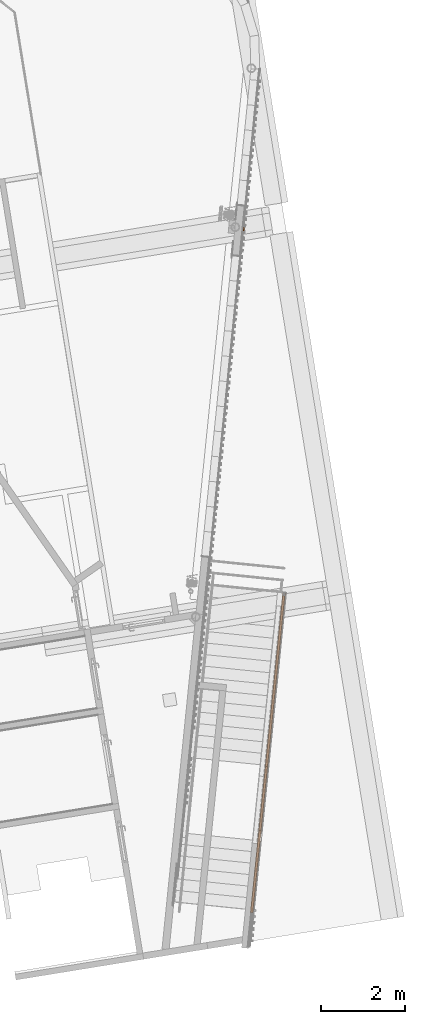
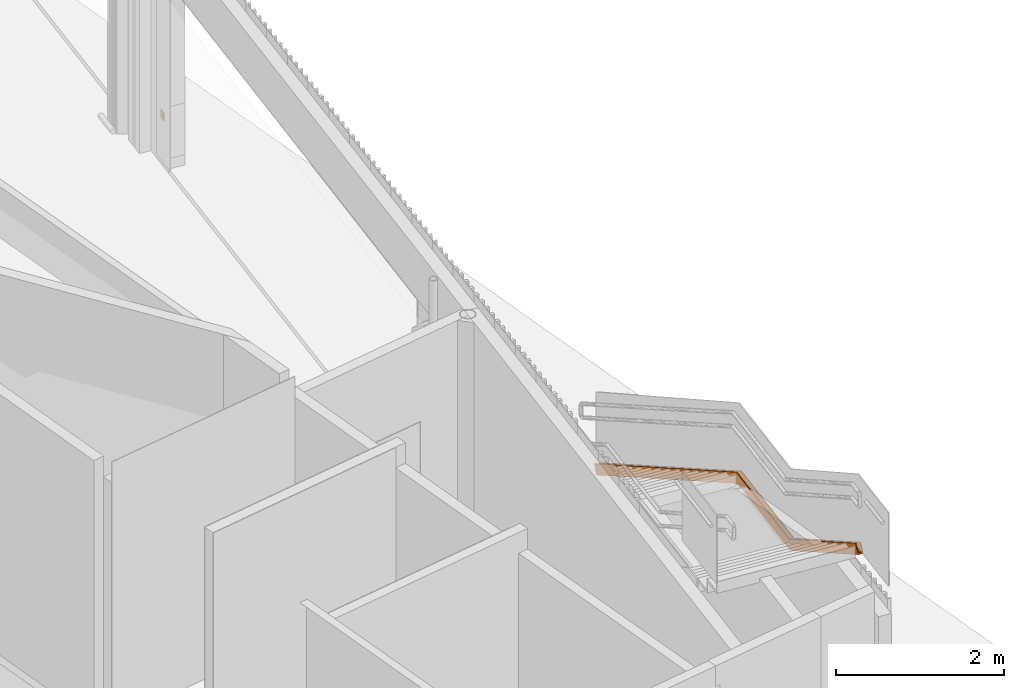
# One storey, part 23 of 23: 2 proxies.
"""IFC2X3 building model written with IfcOpenShell, lengths in millimetres."""

from ifc_helpers import new_model, entity, si_unit, converted_unit, derived_unit, direction, frame, origin, origin_with_axes, place, context, subcontext, project, spatial, faceted_brep, source, transform, mapped, material, material_list, type_object, element, save


model = new_model("IFC2X3")

# Units and contexts
plan_context = context("Plan", 3, precision=1e-05, world=origin_with_axes())
model_context = context("Model", 3, precision=0.01, world=origin(), true_north=direction((6.12323399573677e-17, 1.0)))
body_context = subcontext(model_context, "Body", "Model", "MODEL_VIEW")
ifc_project = project(units=[converted_unit("PLANEANGLEUNIT", "DEGREE", entity("IfcPositiveLengthMeasure", 0.0174532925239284), si_unit("PLANEANGLEUNIT", "RADIAN"), dimensions=[0, 0, 0, 0, 0, 0, 0]), si_unit("AREAUNIT", "SQUARE_METRE"), si_unit("LENGTHUNIT", "METRE", prefix="MILLI"), si_unit("MASSUNIT", "GRAM", prefix="KILO"), si_unit("POWERUNIT", "WATT"), si_unit("PRESSUREUNIT", "PASCAL", prefix="KILO"), si_unit("FORCEUNIT", "NEWTON", prefix="KILO"), si_unit("ELECTRICVOLTAGEUNIT", "VOLT"), si_unit("ELECTRICCURRENTUNIT", "AMPERE"), si_unit("THERMODYNAMICTEMPERATUREUNIT", "DEGREE_CELSIUS"), si_unit("TIMEUNIT", "SECOND"), si_unit("VOLUMEUNIT", "CUBIC_METRE"), derived_unit("LINEARVELOCITYUNIT", [(si_unit("LENGTHUNIT", "METRE"), 1), (si_unit("TIMEUNIT", "SECOND"), -1)]), derived_unit("VOLUMETRICFLOWRATEUNIT", [(si_unit("VOLUMEUNIT", "CUBIC_METRE"), 1), (si_unit("TIMEUNIT", "SECOND"), -1)]), derived_unit("THERMALTRANSMITTANCEUNIT", [(si_unit("POWERUNIT", "WATT"), 1), (si_unit("THERMODYNAMICTEMPERATUREUNIT", "KELVIN"), -1), (si_unit("AREAUNIT", "SQUARE_METRE"), -1)]), derived_unit("SOUNDPRESSUREUNIT", [(si_unit("PRESSUREUNIT", "PASCAL"), 1)])], contexts=[model_context, plan_context])

# Site, building, storey
site_placement = place(None, frame((-0.00071070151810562, 0.00438415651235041, 0.0), z_axis=(0.0, 0.0, 1.0), x_axis=(-0.160236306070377, 0.987078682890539, 0.0)))
site = spatial("IfcSite", under=ifc_project, at=site_placement, Name="Default", CompositionType="ELEMENT")
building_placement = place(site_placement, origin_with_axes())
building = spatial("IfcBuilding", under=site, at=building_placement, Name="TOO", CompositionType="ELEMENT")
storey_placement = place(building_placement, frame((0.0, 0.0, 58999.9999999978), z_axis=(0.0, 0.0, 1.0), x_axis=(1.0, 0.0, 0.0)))
storey = spatial("IfcBuildingStorey", under=building, at=storey_placement, Name="Nivå F", CompositionType="ELEMENT", Elevation=58999.9999999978)

# Proxies
ifc_material_1 = material(Name="<Unnamed>")
building_element_proxy_type_1 = type_object("IfcBuildingElementProxyType", Name="TD rekkverk innfesting profiøl2:TD rekkverk innfesting profiøl", PredefinedType="NOTDEFINED", material=ifc_material_1)
shared_shape_1 = source(origin(), body_context, "Body", "Brep", [
    faceted_brep([(771038.883223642, -508616.451754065, 59054.1661388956), (771109.176138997, -508635.286683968, 59173.7210932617), (771106.587948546, -508644.945942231, 59173.7210932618), (771043.828485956, -508628.129594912, 59066.9791172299), (771030.8875337, -508676.425886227, 59066.9791172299), (771093.646996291, -508693.242233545, 59173.7210932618), (771091.05880584, -508702.901491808, 59173.7210932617), (771020.765890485, -508684.066561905, 59054.1661388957), (763729.452738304, -506657.895758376, 62732.0752621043), (763711.335405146, -506725.510566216, 62732.0752621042), (763781.628320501, -506744.345496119, 62851.6302164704), (763784.216510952, -506734.686237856, 62851.6302164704), (763721.457048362, -506717.869890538, 62744.8882404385), (763734.398000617, -506669.573599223, 62744.8882404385), (763797.157463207, -506686.389946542, 62851.6302164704), (763799.745653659, -506676.730688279, 62851.6302164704), (767096.866575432, -507560.191576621, 61538.2993189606), (765623.829690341, -507165.492532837, 61538.2993189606), (765661.739824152, -507175.650522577, 61678.260869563), (767134.776709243, -507570.34956636, 61678.260869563), (767132.188518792, -507580.008824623, 61678.2608695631), (765659.151633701, -507185.30978084, 61678.260869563), (765625.304415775, -507176.24044613, 61553.2993189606), (767098.341300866, -507570.939489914, 61553.2993189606), (767085.400348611, -507619.235781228, 61553.2993189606), (765612.36346352, -507224.536737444, 61553.2993189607), (765646.210681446, -507233.606072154, 61678.2608695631), (767119.247566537, -507628.305115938, 61678.2608695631), (767116.659376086, -507637.9643742, 61678.260869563), (765643.622490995, -507243.265330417, 61678.260869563), (765605.712357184, -507233.107340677, 61538.2993189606), (767078.749242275, -507627.806384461, 61538.2993189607)], [[[0, 1, 2, 3, 4, 5, 6, 7]], [[8, 9, 10, 11, 12, 13, 14, 15]], [[1, 0, 16, 17, 8, 15, 18, 19]], [[2, 1, 19, 20]], [[3, 2, 20, 21, 14, 13, 22, 23]], [[4, 3, 23, 24]], [[5, 4, 24, 25, 12, 11, 26, 27]], [[6, 5, 27, 28]], [[7, 6, 28, 29, 10, 9, 30, 31]], [[0, 7, 31, 16]], [[20, 19, 18, 21]], [[24, 23, 22, 25]], [[28, 27, 26, 29]], [[16, 31, 30, 17]], [[21, 18, 15, 14]], [[25, 22, 13, 12]], [[29, 26, 11, 10]], [[17, 30, 9, 8]]]),
])
proxy_1_placement = place(storey_placement, frame((0.0, 0.0, -58999.9999999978), z_axis=(0.0, 0.0, 1.0), x_axis=(1.0, 0.0, 0.0)))
element("IfcBuildingElementProxy", 1, at=proxy_1_placement, inside=storey, type_object=building_element_proxy_type_1, material=ifc_material_1, Name="TD rekkverk innfesting profiøl2:TD rekkverk innfesting profiøl", ObjectType="TD rekkverk innfesting profiøl2:TD rekkverk innfesting profiøl", context=body_context, shape_type="MappedRepresentation", body=[
    mapped(shared_shape_1, transform((0.0, 0.0, 0.0), scale=1.0)),
])
ifc_material_2 = material(Name="Material3")
ifc_material_3 = material(Name="Material1")
ifc_material_4 = material(Name="Material2")
ifc_material_list = material_list([ifc_material_2, ifc_material_3, ifc_material_4])
building_element_proxy_type_2 = type_object("IfcBuildingElementProxyType", Name="Dobbelstikk vertikal:Dobbelstikk vertikal", PredefinedType="NOTDEFINED", material=ifc_material_list)
shared_shape_2 = source(origin(), body_context, "Body", "Brep", [
    faceted_brep([(0.487092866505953, -17.4980087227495, -6.419947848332), (0.487092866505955, -17.0, -6.31270685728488), (0.487092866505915, -5.0, -6.31270685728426), (0.487092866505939, -5.0, -5.51270685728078), (0.487092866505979, -17.0, -5.51270685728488), (0.487092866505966, -18.4212520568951, -6.10140873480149), (0.487092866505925, -19.0099539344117, -7.52266079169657), (0.487092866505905, -13.0337787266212, -7.52266079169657), (0.487092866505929, -13.0337787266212, -6.72266079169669), (0.487092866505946, -17.9077381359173, -6.72266079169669), (-0.512907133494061, -5.0, -5.51270685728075), (-0.512907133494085, -5.0, -6.31270685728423), (-0.512907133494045, -17.0, -6.31270685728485), (-0.512907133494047, -17.4980087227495, -6.41994784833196), (-0.512907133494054, -17.9077381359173, -6.72266079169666), (-0.512907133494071, -13.0337787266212, -6.72266079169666), (-0.512907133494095, -13.0337787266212, -7.52266079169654), (-0.512907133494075, -19.0099539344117, -7.52266079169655), (-0.512907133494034, -18.4212520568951, -6.10140873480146), (-0.512907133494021, -17.0, -5.51270685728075)], [[[0, 1, 2, 3, 4, 5, 6, 7, 8, 9]], [[10, 11, 12, 13, 14, 15, 16, 17, 18, 19]], [[10, 19, 4, 3]], [[10, 3, 2, 11]], [[11, 2, 1, 12]], [[1, 0, 13, 12]], [[13, 0, 9, 14]], [[15, 14, 9, 8]], [[15, 8, 7, 16]], [[16, 7, 6, 17]], [[5, 18, 17, 6]], [[4, 19, 18, 5]]]),
    faceted_brep([(-0.512907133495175, -13.0667616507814, -43.2905038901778), (-0.512907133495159, -17.9240022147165, -43.2905038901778), (-0.51290713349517, -17.5079457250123, -43.6021563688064), (-0.512907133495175, -17.0, -43.7127068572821), (-0.512907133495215, -5.0, -43.7127068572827), (-0.512907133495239, -5.0, -44.5127068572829), (-0.512907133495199, -17.0, -44.5127068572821), (-0.512907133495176, -18.429913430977, -43.9204173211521), (-0.512907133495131, -19.022202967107, -42.4905038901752), (-0.512907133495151, -13.0667616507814, -42.4905038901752), (0.487092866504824, -18.429913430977, -43.9204173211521), (0.487092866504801, -17.0, -44.512706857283), (0.487092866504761, -5.0, -44.512706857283), (0.487092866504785, -5.0, -43.7127068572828), (0.487092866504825, -17.0, -43.7127068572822), (0.48709286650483, -17.5079457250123, -43.6021563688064), (0.487092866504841, -17.9240022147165, -43.2905038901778), (0.487092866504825, -13.0667616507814, -43.2905038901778), (0.487092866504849, -13.0667616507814, -42.4905038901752), (0.487092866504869, -19.022202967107, -42.4905038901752)], [[[0, 1, 2, 3, 4, 5, 6, 7, 8, 9]], [[10, 11, 12, 13, 14, 15, 16, 17, 18, 19]], [[10, 7, 6, 11]], [[19, 8, 7, 10]], [[9, 8, 19, 18]], [[0, 9, 18, 17]], [[1, 0, 17, 16]], [[16, 15, 2, 1]], [[2, 15, 14, 3]], [[3, 14, 13, 4]], [[5, 4, 13, 12]], [[5, 12, 11, 6]]]),
    faceted_brep([(-17.3205080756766, -5.0, 35.0002002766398), (-19.3185165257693, -5.0, 30.1765811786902), (-41.0, -5.0, 60.0002002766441), (-14.1421356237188, -5.0, 39.1423359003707), (-20.0, -5.0, 25.0002002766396), (-19.3185165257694, -5.0, 19.8238193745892), (-19.3185165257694, -5.0, -19.8234188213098), (-17.3205080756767, -5.0, -14.9997997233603), (-17.3205080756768, -5.0, 15.0002002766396), (-14.1421356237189, -5.0, -10.8576640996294), (-14.1421356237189, -5.0, 10.8580646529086), (-10.0, -5.0, -7.67929164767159), (-10.0, -5.0, 7.6796922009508), (-5.17638090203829, -5.0, -5.68128319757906), (-5.17638090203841, -5.0, 5.6816837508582), (0.0, -5.0, 5.00020027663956), (0.0, -5.0, -4.99979972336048), (5.17638090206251, -5.0, -5.68128319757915), (5.17638090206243, -5.0, 5.68168375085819), (10.0, -5.0, 7.67969220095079), (10.0, -5.0, -7.67929164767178), (14.142135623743, -5.0, 10.8580646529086), (14.142135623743, -5.0, -10.8576640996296), (17.3205080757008, -5.0, 15.0002002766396), (17.3205080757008, -5.0, -14.9997997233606), (19.3185165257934, -5.0, 19.8238193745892), (19.3185165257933, -5.0, -19.8234188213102), (41.0, -5.0, 60.000200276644), (20.0, -5.0, 25.0002002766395), (19.3185165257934, -5.0, 30.1765811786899), (17.3205080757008, -5.0, 35.0002002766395), (14.1421356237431, -5.0, 39.1423359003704), (10.0, -5.0, 42.3207083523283), (5.17638090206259, -5.0, 44.3187168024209), (0.0, -5.0, 45.0002002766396), (-5.17638090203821, -5.0, 44.318716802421), (-10.0, -5.0, 42.3207083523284), (41.0, -5.0, -59.999799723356), (20.0, -5.0, -24.9997997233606), (19.3185165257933, -5.0, -30.1761806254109), (17.3205080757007, -5.0, -34.9997997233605), (14.1421356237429, -5.0, -39.1419353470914), (10.0, -5.0, -42.3203077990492), (5.17638090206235, -5.0, -44.3183162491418), (0.0, -5.0, -44.9997997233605), (-41.0, -5.0, -59.9997997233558), (-20.0, -5.0, -24.9997997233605), (-19.3185165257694, -5.0, -30.1761806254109), (-17.3205080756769, -5.0, -34.9997997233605), (-14.142135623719, -5.0, -39.1419353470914), (-10.0, -5.0, -42.3203077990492), (-5.17638090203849, -5.0, -44.3183162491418), (17.3205080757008, -17.0, 35.0002002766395), (19.3185165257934, -17.0, 30.1765811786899), (31.0, -17.0, 50.0002002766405), (14.142135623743, -17.0, 39.1423359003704), (20.0, -17.0, 25.0002002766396), (19.3185165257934, -17.0, 19.8238193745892), (19.3185165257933, -17.0, -19.8234188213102), (17.3205080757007, -17.0, -14.9997997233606), (17.3205080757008, -17.0, 15.0002002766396), (14.142135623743, -17.0, -10.8576640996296), (14.142135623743, -17.0, 10.8580646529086), (10.0, -17.0, -7.67929164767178), (10.0, -17.0, 7.67969220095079), (5.17638090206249, -17.0, -5.68128319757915), (5.17638090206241, -17.0, 5.68168375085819), (0.0, -17.0, 5.00020027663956), (0.0, -17.0, -4.99979972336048), (-5.17638090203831, -17.0, -5.68128319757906), (-5.17638090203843, -17.0, 5.6816837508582), (-10.0, -17.0, 7.6796922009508), (-10.0, -17.0, -7.67929164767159), (-14.142135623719, -17.0, 10.8580646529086), (-14.1421356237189, -17.0, -10.8576640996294), (-17.3205080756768, -17.0, 15.0002002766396), (-17.3205080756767, -17.0, -14.9997997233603), (-19.3185165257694, -17.0, 19.8238193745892), (-19.3185165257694, -17.0, -19.8234188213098), (-31.0, -17.0, 50.0002002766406), (-20.0, -17.0, 25.0002002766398), (-19.3185165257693, -17.0, 30.1765811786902), (-17.3205080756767, -17.0, 35.0002002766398), (-14.1421356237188, -17.0, 39.1423359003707), (-10.0, -17.0, 42.3207083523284), (-5.17638090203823, -17.0, 44.318716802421), (0.0, -17.0, 45.0002002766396), (5.17638090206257, -17.0, 44.3187168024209), (10.0, -17.0, 42.3207083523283), (-31.0, -17.0, -49.9997997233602), (-20.0, -17.0, -24.9997997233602), (-19.3185165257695, -17.0, -30.1761806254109), (-17.3205080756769, -17.0, -34.9997997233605), (-14.142135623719, -17.0, -39.1419353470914), (-10.0, -17.0, -42.3203077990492), (-5.17638090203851, -17.0, -44.3183162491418), (0.0, -17.0, -44.9997997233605), (31.0, -17.0, -49.9997997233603), (20.0, -17.0, -24.9997997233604), (19.3185165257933, -17.0, -30.1761806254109), (17.3205080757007, -17.0, -34.9997997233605), (14.1421356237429, -17.0, -39.1419353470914), (10.0, -17.0, -42.3203077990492), (5.17638090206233, -17.0, -44.3183162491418)], [[[0, 1, 2]], [[3, 0, 2]], [[4, 2, 1]], [[2, 4, 5]], [[6, 2, 5]], [[6, 5, 7]], [[5, 8, 7]], [[8, 9, 7]], [[10, 9, 8]], [[10, 11, 9]], [[11, 10, 12]], [[12, 13, 11]], [[14, 13, 12]], [[13, 14, 15]], [[15, 16, 13]], [[15, 17, 16]], [[18, 17, 15]], [[17, 18, 19]], [[19, 20, 17]], [[20, 19, 21]], [[21, 22, 20]], [[23, 22, 21]], [[23, 24, 22]], [[23, 25, 24]], [[24, 25, 26]], [[26, 25, 27]], [[27, 25, 28]], [[27, 28, 29]], [[29, 30, 27]], [[30, 31, 27]], [[32, 27, 31]], [[27, 32, 33]], [[27, 33, 34]], [[34, 35, 2]], [[2, 27, 34]], [[2, 35, 36]], [[2, 36, 3]], [[27, 37, 26]], [[37, 38, 26]], [[38, 37, 39]], [[37, 40, 39]], [[40, 37, 41]], [[42, 41, 37]], [[37, 43, 42]], [[37, 44, 43]], [[37, 45, 44]], [[6, 46, 45]], [[47, 45, 46]], [[48, 45, 47]], [[45, 48, 49]], [[50, 45, 49]], [[45, 50, 51]], [[51, 44, 45]], [[6, 45, 2]], [[52, 53, 54]], [[55, 52, 54]], [[56, 54, 53]], [[54, 56, 57]], [[57, 58, 54]], [[57, 59, 58]], [[59, 57, 60]], [[60, 61, 59]], [[62, 61, 60]], [[62, 63, 61]], [[63, 62, 64]], [[64, 65, 63]], [[66, 65, 64]], [[65, 66, 67]], [[67, 68, 65]], [[67, 69, 68]], [[70, 69, 67]], [[69, 70, 71]], [[71, 72, 69]], [[72, 71, 73]], [[73, 74, 72]], [[75, 74, 73]], [[75, 76, 74]], [[76, 75, 77]], [[77, 78, 76]], [[78, 77, 79]], [[79, 77, 80]], [[79, 80, 81]], [[81, 82, 79]], [[82, 83, 79]], [[84, 79, 83]], [[79, 84, 85]], [[79, 85, 86]], [[86, 87, 54]], [[54, 79, 86]], [[54, 87, 88]], [[54, 88, 55]], [[79, 89, 78]], [[89, 90, 78]], [[90, 89, 91]], [[89, 92, 91]], [[92, 89, 93]], [[94, 93, 89]], [[89, 95, 94]], [[89, 96, 95]], [[89, 97, 96]], [[58, 98, 97]], [[99, 97, 98]], [[100, 97, 99]], [[97, 100, 101]], [[102, 97, 101]], [[97, 102, 103]], [[103, 96, 97]], [[97, 54, 58]], [[79, 54, 27, 2]], [[45, 89, 79, 2]], [[37, 97, 89, 45]], [[54, 97, 37, 27]], [[58, 26, 38, 98]], [[59, 24, 26, 58]], [[20, 22, 61, 63]], [[59, 61, 22, 24]], [[17, 20, 63, 65]], [[16, 17, 65, 68]], [[69, 13, 16, 68]], [[72, 11, 13, 69]], [[7, 9, 74, 76]], [[72, 74, 9, 11]], [[6, 7, 76, 78]], [[46, 6, 78, 90]], [[91, 47, 46, 90]], [[92, 48, 47, 91]], [[50, 49, 93, 94]], [[92, 93, 49, 48]], [[51, 50, 94, 95]], [[44, 51, 95, 96]], [[103, 43, 44, 96]], [[102, 42, 43, 103]], [[40, 41, 101, 100]], [[102, 101, 41, 42]], [[39, 40, 100, 99]], [[38, 39, 99, 98]], [[53, 29, 28, 56]], [[52, 30, 29, 53]], [[32, 31, 55, 88]], [[52, 55, 31, 30]], [[33, 32, 88, 87]], [[34, 33, 87, 86]], [[85, 35, 34, 86]], [[84, 36, 35, 85]], [[0, 3, 83, 82]], [[84, 83, 3, 36]], [[1, 0, 82, 81]], [[4, 1, 81, 80]], [[77, 5, 4, 80]], [[75, 8, 5, 77]], [[12, 10, 73, 71]], [[75, 73, 10, 8]], [[14, 12, 71, 70]], [[15, 14, 70, 67]], [[66, 18, 15, 67]], [[64, 19, 18, 66]], [[23, 21, 62, 60]], [[64, 62, 21, 19]], [[25, 23, 60, 57]], [[28, 25, 57, 56]]]),
    faceted_brep([(0.500200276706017, -17.4980087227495, 43.593159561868), (0.500200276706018, -17.0, 43.7004005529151), (0.500200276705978, -5.0, 43.7004005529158), (0.500200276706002, -5.0, 44.5004005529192), (0.500200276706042, -17.0, 44.5004005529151), (0.500200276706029, -18.4212520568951, 43.9116986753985), (0.500200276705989, -19.0099539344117, 42.4904466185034), (0.500200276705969, -13.0337787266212, 42.4904466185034), (0.500200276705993, -13.0337787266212, 43.2904466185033), (0.500200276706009, -17.9077381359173, 43.2904466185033), (-0.499799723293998, -5.0, 44.5004005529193), (-0.499799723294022, -5.0, 43.7004005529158), (-0.499799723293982, -17.0, 43.7004005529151), (-0.499799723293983, -17.4980087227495, 43.593159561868), (-0.499799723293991, -17.9077381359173, 43.2904466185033), (-0.499799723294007, -13.0337787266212, 43.2904466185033), (-0.499799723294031, -13.0337787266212, 42.4904466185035), (-0.49979972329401, -19.0099539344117, 42.4904466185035), (-0.499799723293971, -18.4212520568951, 43.9116986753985), (-0.499799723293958, -17.0, 44.5004005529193)], [[[0, 1, 2, 3, 4, 5, 6, 7, 8, 9]], [[10, 11, 12, 13, 14, 15, 16, 17, 18, 19]], [[10, 19, 4, 3]], [[10, 3, 2, 11]], [[11, 2, 1, 12]], [[1, 0, 13, 12]], [[13, 0, 9, 14]], [[15, 14, 9, 8]], [[15, 8, 7, 16]], [[16, 7, 6, 17]], [[5, 18, 17, 6]], [[4, 19, 18, 5]]]),
    faceted_brep([(0.500200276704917, -18.429913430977, 6.09269008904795), (0.500200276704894, -17.0, 5.50040055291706), (0.500200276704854, -5.0, 5.50040055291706), (0.500200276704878, -5.0, 6.30040055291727), (0.500200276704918, -17.0, 6.30040055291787), (0.500200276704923, -17.5079457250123, 6.41095104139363), (0.500200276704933, -17.9240022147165, 6.72260352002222), (0.500200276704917, -13.0667616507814, 6.72260352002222), (0.500200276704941, -13.0667616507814, 7.52260352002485), (0.500200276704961, -19.022202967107, 7.52260352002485), (-0.499799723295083, -13.0667616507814, 6.72260352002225), (-0.499799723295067, -17.9240022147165, 6.72260352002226), (-0.499799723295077, -17.5079457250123, 6.41095104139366), (-0.499799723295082, -17.0, 6.3004005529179), (-0.499799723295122, -5.0, 6.3004005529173), (-0.499799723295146, -5.0, 5.50040055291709), (-0.499799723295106, -17.0, 5.5004005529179), (-0.499799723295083, -18.429913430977, 6.09269008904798), (-0.499799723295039, -19.022202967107, 7.52260352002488), (-0.499799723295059, -13.0667616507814, 7.52260352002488)], [[[0, 1, 2, 3, 4, 5, 6, 7, 8, 9]], [[10, 11, 12, 13, 14, 15, 16, 17, 18, 19]], [[0, 17, 16, 1]], [[9, 18, 17, 0]], [[19, 18, 9, 8]], [[19, 8, 7, 10]], [[11, 10, 7, 6]], [[6, 5, 12, 11]], [[12, 5, 4, 13]], [[13, 4, 3, 14]], [[15, 14, 3, 2]], [[15, 2, 1, 16]]]),
    faceted_brep([(-7.45647537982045, -5.0, 25.0004005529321), (-8.72813755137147, -5.0, 23.7287383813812), (-9.99979972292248, -5.0, 22.4570762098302), (-11.2714618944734, -5.0, 23.7287383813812), (-12.5431240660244, -5.0, 25.0004005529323), (-11.2714618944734, -5.0, 26.2720627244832), (-9.99979972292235, -5.0, 27.5437248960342), (-8.72813755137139, -5.0, 26.2720627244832), (-8.56429357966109, -5.50000000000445, 26.1082187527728), (-9.99979972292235, -5.50000000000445, 27.5437248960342), (-11.2714618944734, -5.50000000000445, 26.2720627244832), (-12.5431240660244, -5.50000000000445, 25.0004005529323), (-11.4353058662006, -5.50000000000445, 23.8925823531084), (-9.99979972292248, -5.50000000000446, 22.4570762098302), (-8.72813755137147, -5.50000000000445, 23.7287383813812), (-7.45647537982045, -5.50000000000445, 25.0004005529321)], [[[0, 1, 2, 3, 4, 5, 6, 7]], [[8, 9, 10, 11, 12, 13, 14, 15]], [[6, 9, 8, 15, 0, 7]], [[10, 9, 6, 5, 4, 11]], [[2, 13, 12, 11, 4, 3]], [[14, 13, 2, 1, 0, 15]]]),
    faceted_brep([(12.54312406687, -5.0, 25.0004005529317), (11.27166217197, -5.0, 23.7289386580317), (10.00020027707, -5.0, 22.4574767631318), (8.72873838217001, -5.0, 23.7289386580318), (7.45727648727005, -5.0, 25.0004005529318), (8.72873838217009, -5.0, 26.2718624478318), (10.0002002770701, -5.0, 27.5433243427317), (11.2716621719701, -5.0, 26.2718624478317), (12.54312406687, -5.50000000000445, 25.0004005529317), (11.2716621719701, -5.50000000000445, 26.2718624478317), (10.0002002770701, -5.50000000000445, 27.5433243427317), (8.56500744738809, -5.50000000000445, 26.1081315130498), (7.45727648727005, -5.50000000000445, 25.0004005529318), (8.72873838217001, -5.50000000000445, 23.7289386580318), (10.00020027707, -5.50000000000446, 22.4574767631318), (11.435393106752, -5.50000000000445, 23.8926695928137)], [[[0, 1, 2, 3, 4, 5, 6, 7]], [[8, 9, 10, 11, 12, 13, 14, 15]], [[0, 7, 6, 10, 9, 8]], [[6, 5, 4, 12, 11, 10]], [[4, 3, 2, 14, 13, 12]], [[2, 1, 0, 8, 15, 14]]]),
    faceted_brep([(-7.57352936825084, -5.0, -24.9995994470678), (-8.79977195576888, -5.0, -26.2258420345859), (-10.0260145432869, -5.0, -27.4520846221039), (-11.2522571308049, -5.0, -26.2258420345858), (-12.478499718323, -5.0, -24.9995994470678), (-11.2522571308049, -5.0, -23.7733568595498), (-10.0260145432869, -5.0, -22.5471142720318), (-8.79977195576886, -5.0, -23.7733568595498), (-8.66138387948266, -5.50000000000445, -23.911744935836), (-10.0260145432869, -5.50000000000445, -22.5471142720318), (-11.2522571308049, -5.50000000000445, -23.7733568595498), (-12.478499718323, -5.50000000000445, -24.9995994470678), (-11.3906452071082, -5.50000000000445, -26.0874539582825), (-10.0260145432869, -5.50000000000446, -27.4520846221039), (-8.79977195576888, -5.50000000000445, -26.2258420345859), (-7.57352936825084, -5.50000000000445, -24.9995994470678)], [[[0, 1, 2, 3, 4, 5, 6, 7]], [[8, 9, 10, 11, 12, 13, 14, 15]], [[6, 9, 8, 15, 0, 7]], [[10, 9, 6, 5, 4, 11]], [[2, 13, 12, 11, 4, 3]], [[14, 13, 2, 1, 0, 15]]]),
    faceted_brep([(9.97398545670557, -5.0, -22.5213000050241), (11.2131351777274, -5.0, -23.7604497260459), (12.4522848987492, -5.0, -24.9995994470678), (11.2131351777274, -5.0, -26.2387491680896), (9.97398545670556, -5.0, -27.4778988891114), (8.73483573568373, -5.0, -26.2387491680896), (7.4956860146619, -5.0, -24.9995994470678), (8.73483573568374, -5.0, -23.7604497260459), (11.2131351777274, -5.50000000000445, -23.7604497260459), (9.97398545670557, -5.50000000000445, -22.5213000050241), (8.58925078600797, -5.50000000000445, -23.9060346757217), (7.4956860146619, -5.50000000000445, -24.9995994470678), (8.73483573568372, -5.50000000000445, -26.2387491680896), (9.97398545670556, -5.50000000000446, -27.4778988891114), (11.3587201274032, -5.50000000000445, -26.0931642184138), (12.4522848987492, -5.50000000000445, -24.9995994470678)], [[[0, 1, 2, 3, 4, 5, 6, 7]], [[8, 9, 10, 11, 12, 13, 14, 15]], [[2, 1, 0, 9, 8, 15]], [[0, 7, 6, 11, 10, 9]], [[6, 5, 4, 13, 12, 11]], [[4, 3, 2, 15, 14, 13]]]),
    faceted_brep([(41.0, 0.0, 60.000200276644), (41.0, 0.0, -59.999799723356), (-41.0, 0.0, -59.9997997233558), (-41.0, 0.0, 60.0002002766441), (41.0, -5.0, 60.000200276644), (-41.0, -5.0, 60.0002002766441), (-41.0, -5.0, -59.9997997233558), (41.0, -5.0, -59.999799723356)], [[[0, 1, 2, 3]], [[4, 5, 6, 7]], [[3, 5, 4, 0]], [[2, 6, 5, 3]], [[1, 7, 6, 2]], [[0, 4, 7, 1]]]),
])
proxy_2_placement = place(storey_placement, frame((779806.472182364, -509107.252426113, 300.0), z_axis=(0.0, 0.0, 1.0), x_axis=(0.965925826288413, -0.258819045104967, 0.0)))
element("IfcBuildingElementProxy", 2, at=proxy_2_placement, inside=storey, type_object=building_element_proxy_type_2, material=ifc_material_list, Name="Dobbelstikk vertikal:Dobbelstikk vertikal", ObjectType="Dobbelstikk vertikal:Dobbelstikk vertikal", context=body_context, shape_type="MappedRepresentation", body=[
    mapped(shared_shape_2, transform((0.0, 0.0, 0.0), scale=1.0)),
])

save(model, "model.ifc")
